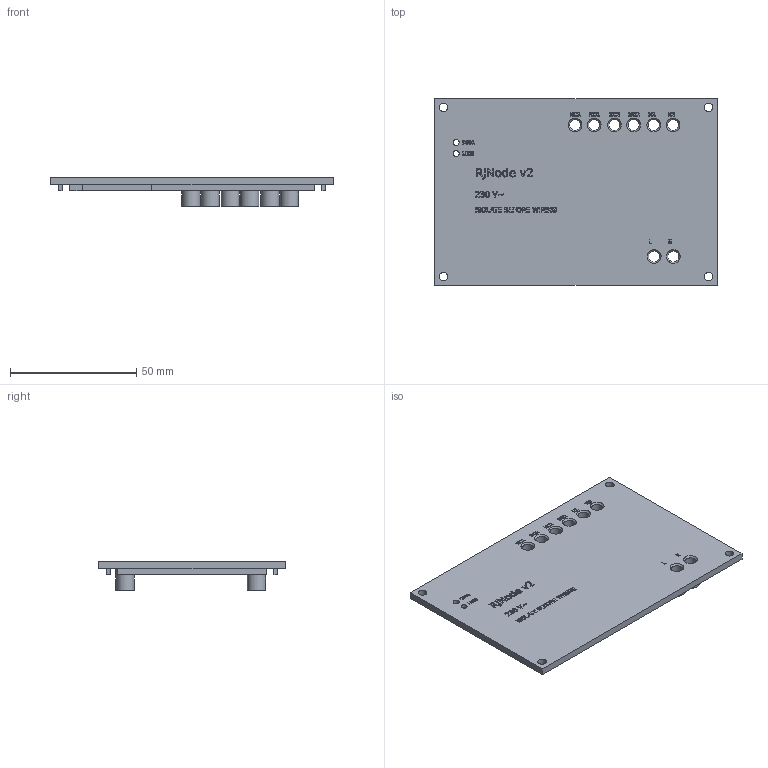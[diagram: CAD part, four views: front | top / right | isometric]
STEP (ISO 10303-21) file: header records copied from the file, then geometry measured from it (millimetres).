
FILE_DESCRIPTION(('FreeCAD Model'),'2;1');
FILE_NAME('Open CASCADE Shape Model','2026-11-16T15:21:23',('FreeCAD'),( 'FreeCAD'),'Open CASCADE STEP processor 7.9','FreeCAD','Unknown');
FILE_SCHEMA(('AUTOMOTIVE_DESIGN { 1 0 10303 214 1 1 1 1 }'));
Length unit declared in the file: millimetre
Products named in the file (1): Open CASCADE STEP translator 7.9 2
Bounding box: 112 x 74 x 11.4 mm (x, y, z)
Volume: 25431.9 mm3; surface area: 21929 mm2
Topology: 1 solids, 1 shells, 992 faces, 2697 edges, 1796 vertices
Faces by surface type: bspline 992
Entity records: 33944 total; most frequent: CARTESIAN_POINT 17255, ORIENTED_EDGE 5394, EDGE_CURVE 2697, B_SPLINE_CURVE_WITH_KNOTS 2623, VERTEX_POINT 1796, FACE_BOUND 1109, EDGE_LOOP 1109, ADVANCED_FACE 992
